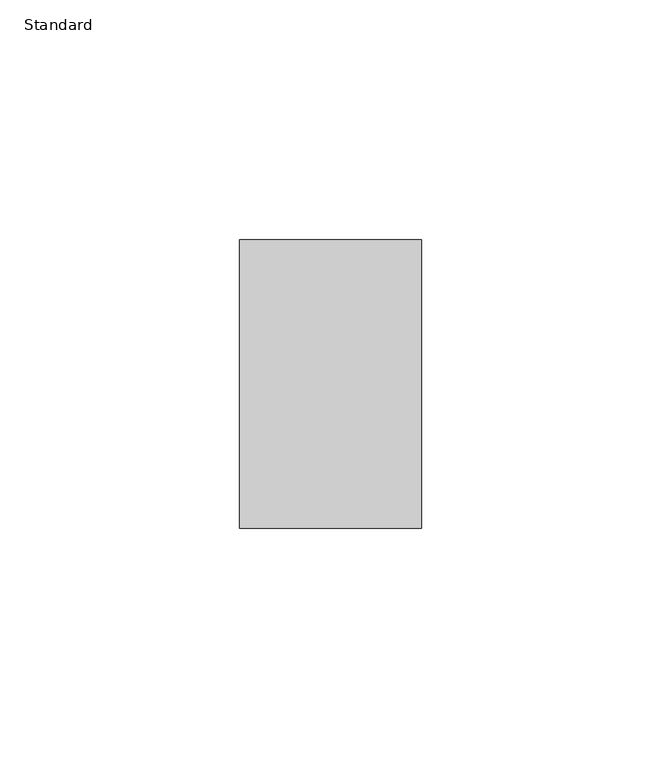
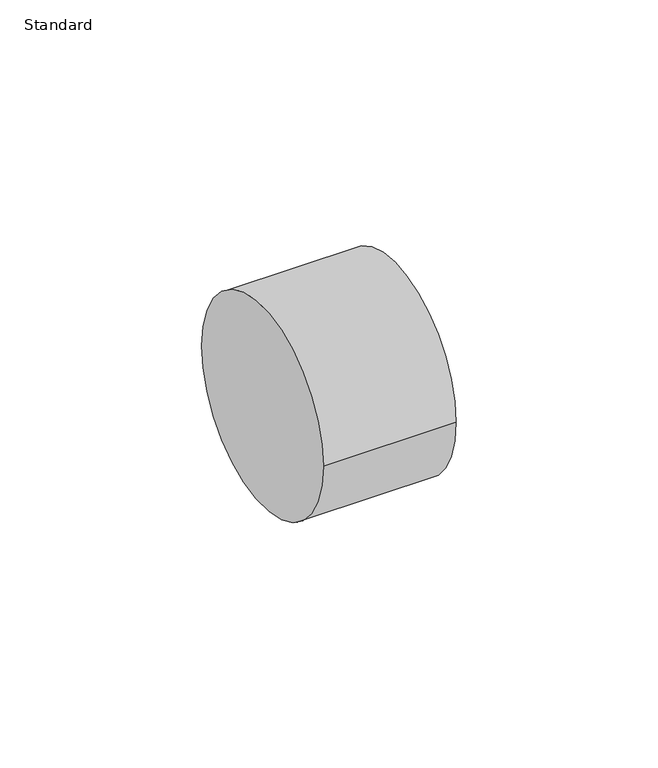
"""IFC4 building model written with IfcOpenShell, lengths in millimetres: pipe fitting geometry, Cap_Lubrizol_CPVC_FlowGuard_MX : Standard."""

from ifc_helpers import new_model, si_unit, point, frame, origin, origin_2d, place, context, project, spatial, circle_curve, trimmed, segment, composite_curve, outline, extrude, source, transform, mapped, element, save


def standard_6d483c06(model_context):
    return source(origin(), model_context, "Body", "SweptSolid", [
        extrude(outline(composite_curve([segment(trimmed(circle_curve(origin_2d(), 30.15), [point((-30.15, 0.0))], [point((30.15, 0.0))], False, "CARTESIAN"), True, "CONTINUOUS"), segment(trimmed(circle_curve(origin_2d(), 30.15), [point((30.15, 0.0))], [point((-30.15, 0.0))], False, "CARTESIAN"), True, "CONTINUOUS")], self_intersect=False)), frame((0.0, 0.0, 0.0), z_axis=(1.0, 0.0, 0.0), x_axis=(0.0, 1.0, 0.0)), (0.0, 0.0, 1.0), 38.0),
    ])


if __name__ == "__main__":
    model = new_model("IFC4")
    model_context = context("Model", 3, world=origin())
    ifc_project = project(units=[si_unit("LENGTHUNIT", "METRE", prefix="MILLI")], contexts=[model_context])
    site = spatial("IfcSite", under=ifc_project)
    building = spatial("IfcBuilding", under=site)
    placement = place(None, origin())
    standard_shape = standard_6d483c06(model_context)
    element("IfcPipeFitting", 1, ObjectType="Cap_Lubrizol_CPVC_FlowGuard_MX : Standard", at=placement, inside=building, context=model_context, shape_type="MappedRepresentation", body=[
        mapped(standard_shape, transform((0.0, 0.0, 0.0), x_axis=(1.0, 0.0, 0.0), y_axis=(0.0, 1.0, 0.0), z_axis=(0.0, 0.0, 1.0))),
    ])
    save(model, "model.ifc")
